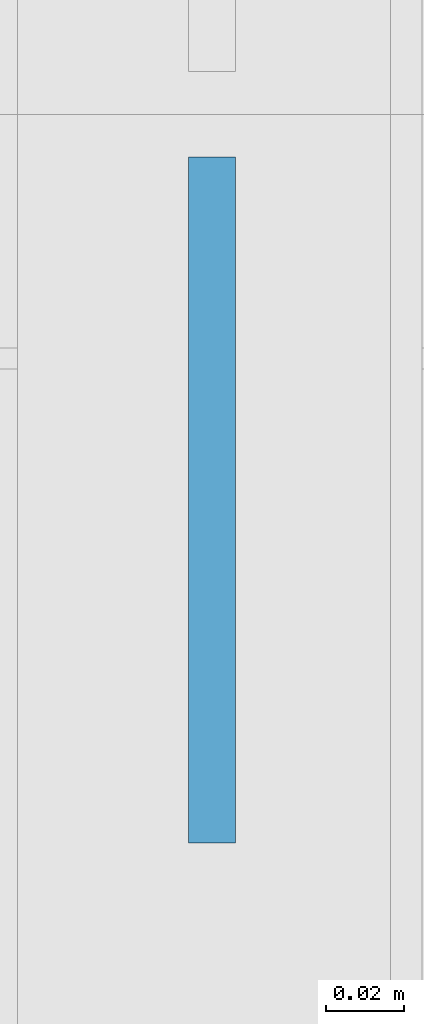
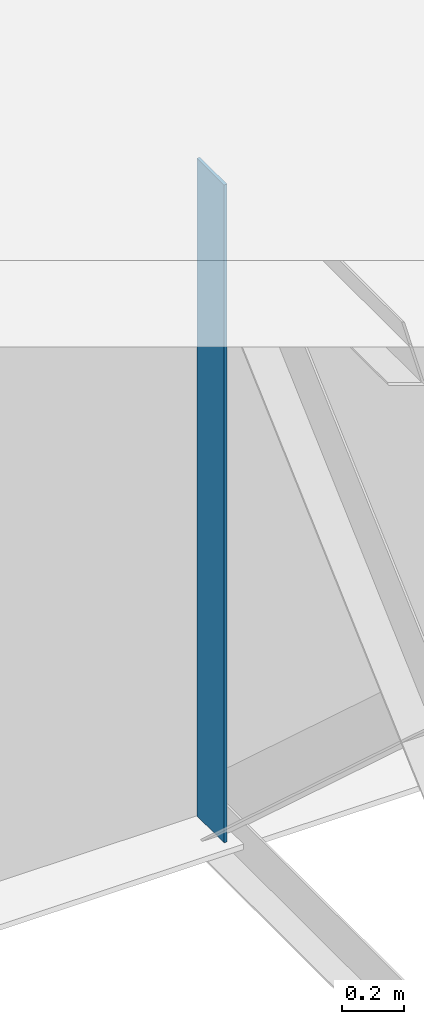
# One storey, part 7 of 12: 1 plate.
"""IFC4 building model written with IfcOpenShell, lengths in metres."""

from ifc_helpers import new_model, si_unit, frame, origin, origin_with_axes, origin_2d_with_axis, place, context, subcontext, project, spatial, rectangle, extrude, element, save


model = new_model("IFC4")

# Units and contexts
model_context = context("Model", 3, precision=1e-05, world=origin())
body_context = subcontext(model_context, "Body", "Model", "MODEL_VIEW")
ifc_project = project(units=[si_unit("LENGTHUNIT", "METRE"), si_unit("AREAUNIT", "SQUARE_METRE"), si_unit("VOLUMEUNIT", "CUBIC_METRE"), si_unit("PLANEANGLEUNIT", "RADIAN")], contexts=[model_context])

# Site, building, storey
site_placement = place(None, origin_with_axes())
site = spatial("IfcSite", under=ifc_project, at=site_placement, Name="Default Site")
building_placement = place(site_placement, origin_with_axes())
building = spatial("IfcBuilding", under=site, at=building_placement, Name="Bridge Structure")
storey_placement = place(building_placement, origin_with_axes())
storey = spatial("IfcBuildingStorey", under=building, at=storey_placement, Name="Superstructure")

# Plate
plate_placement = place(storey_placement, frame((22.498, -0.09925, -1.305), z_axis=(0.0, 0.0, 1.0), x_axis=(1.0, 0.0, 0.0)))
element("IfcPlate", 1, at=plate_placement, inside=storey, Name="Intermediate Stiffener 2", context=body_context, shape_type="SweptSolid", body=[
    extrude(rectangle(XDim=0.012, YDim=0.1765, at=origin_2d_with_axis()), origin_with_axes(), (0.0, 0.0, 1.0), 2.61),
])

save(model, "model.ifc")
